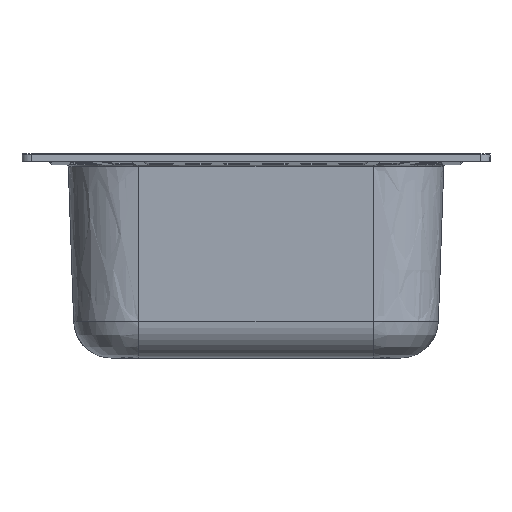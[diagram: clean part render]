
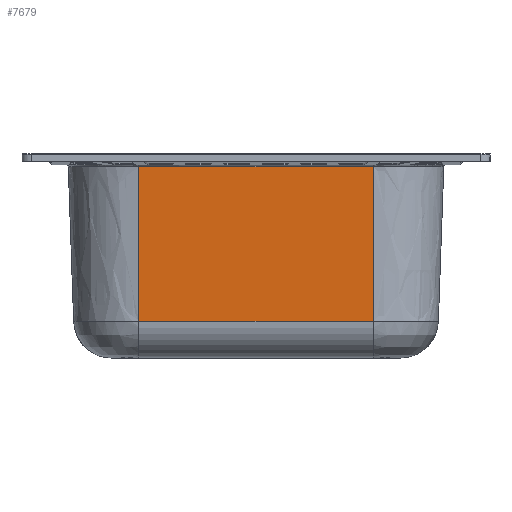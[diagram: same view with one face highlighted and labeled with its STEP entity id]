
A CAD part, left-side view. The second image highlights one B-rep face of the part: STEP entity #7679.
In plain terms, the highlighted planar face has unit normal (-0.999, 0, -0.035).
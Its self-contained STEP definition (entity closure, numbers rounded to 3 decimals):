
#7103=CARTESIAN_POINT('Vertex',(4.398,125.09,6.47)) ;
#7158=CARTESIAN_POINT('Vertex',(4.398,-125.09,6.47)) ;
#7166=CARTESIAN_POINT('Line Origine',(4.398,0.,6.47)) ;
#7642=CARTESIAN_POINT('Vertex',(10.17,125.09,-158.817)) ;
#7646=CARTESIAN_POINT('Control Point',(10.17,125.09,-158.817)) ;
#7647=CARTESIAN_POINT('Control Point',(4.398,125.09,6.47)) ;
#7656=CARTESIAN_POINT('Axis2P3D Location',(7.914,0.,-94.221)) ;
#7661=CARTESIAN_POINT('Line Origine',(10.17,0.,-158.817)) ;
#7665=CARTESIAN_POINT('Vertex',(10.17,-125.09,-158.817)) ;
#7668=CARTESIAN_POINT('Line Origine',(7.284,-125.09,-76.174)) ;
#7167=DIRECTION('Vector Direction',(0.,1.,0.)) ;
#7657=DIRECTION('Axis2P3D Direction',(-0.999,-0.,-0.035)) ;
#7658=DIRECTION('Axis2P3D XDirection',(0.,-1.,0.)) ;
#7662=DIRECTION('Vector Direction',(0.,-1.,0.)) ;
#7669=DIRECTION('Vector Direction',(-0.035,0.,0.999)) ;
#7659=AXIS2_PLACEMENT_3D('Plane Axis2P3D',#7656,#7657,#7658) ;
#7674=ORIENTED_EDGE('',*,*,#7667,.T.) ;
#7675=ORIENTED_EDGE('',*,*,#7672,.T.) ;
#7676=ORIENTED_EDGE('',*,*,#7170,.T.) ;
#7677=ORIENTED_EDGE('',*,*,#7648,.F.) ;
#7168=VECTOR('Line Direction',#7167,1.) ;
#7663=VECTOR('Line Direction',#7662,1.) ;
#7670=VECTOR('Line Direction',#7669,1.) ;
#7679=ADVANCED_FACE('Vasca CTP',(#7678),#7660,.T.) ;
#7645=B_SPLINE_CURVE_WITH_KNOTS('',1,(#7646,#7647),.UNSPECIFIED.,.F.,.U.,(2,2),(38.628,204.015),.UNSPECIFIED.) ;
#7170=EDGE_CURVE('',#7159,#7104,#7169,.T.) ;
#7648=EDGE_CURVE('',#7643,#7104,#7645,.T.) ;
#7667=EDGE_CURVE('',#7643,#7666,#7664,.T.) ;
#7672=EDGE_CURVE('',#7666,#7159,#7671,.T.) ;
#7673=EDGE_LOOP('',(#7674,#7675,#7676,#7677)) ;
#7678=FACE_OUTER_BOUND('',#7673,.T.) ;
#7169=LINE('Line',#7166,#7168) ;
#7664=LINE('Line',#7661,#7663) ;
#7671=LINE('Line',#7668,#7670) ;
#7660=PLANE('',#7659) ;
#7104=VERTEX_POINT('',#7103) ;
#7159=VERTEX_POINT('',#7158) ;
#7643=VERTEX_POINT('',#7642) ;
#7666=VERTEX_POINT('',#7665) ;
